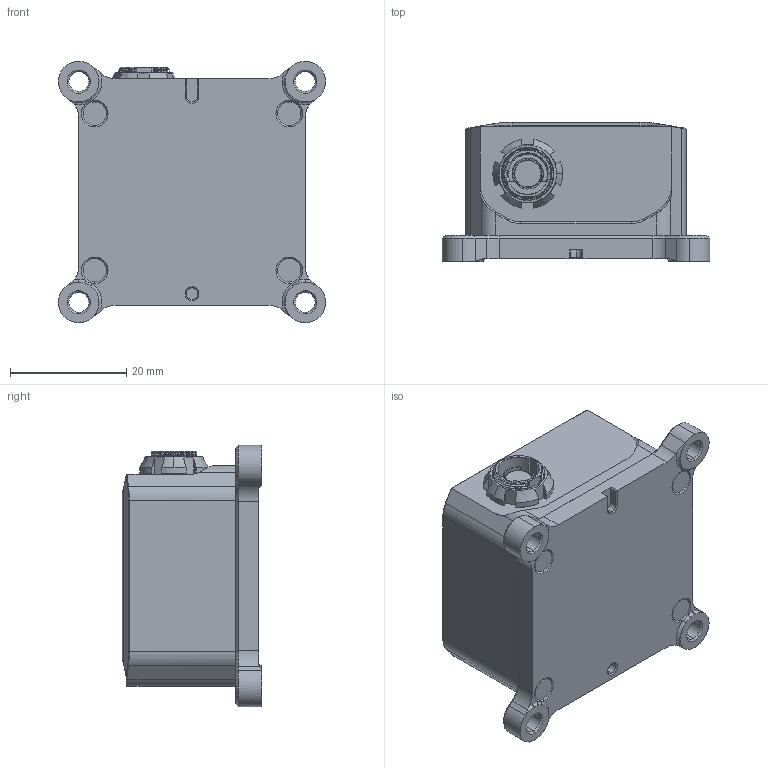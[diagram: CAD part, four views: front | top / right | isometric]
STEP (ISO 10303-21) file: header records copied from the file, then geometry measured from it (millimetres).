
FILE_DESCRIPTION (( 'STEP AP214' ), '1' );
FILE_NAME ('IGNG-A_customer.STEP', '2014-02-14T11:03:14', ( '' ), ( '' ), 'SwSTEP 2.0', 'SolidWorks 2013', '' );
FILE_SCHEMA (( 'AUTOMOTIVE_DESIGN' ));
Length unit declared in the file: millimetre
Products named in the file (1): IGNG-A_customer
Bounding box: 46 x 24 x 45 mm (x, y, z)
Surface area: 9417.7 mm2 (no closed solid volume)
Topology: 0 solids, 21 shells, 1279 faces, 3415 edges, 2193 vertices
Faces by surface type: plane 542, cylinder 368, bspline 218, cone 119, torus 32
Entity records: 64670 total; most frequent: CARTESIAN_POINT 20961, ORIENTED_EDGE 6798, DIRECTION 5121, EDGE_CURVE 3401, VERTEX_POINT 2193, AXIS2_PLACEMENT_3D 1749, LINE 1623, VECTOR 1623
